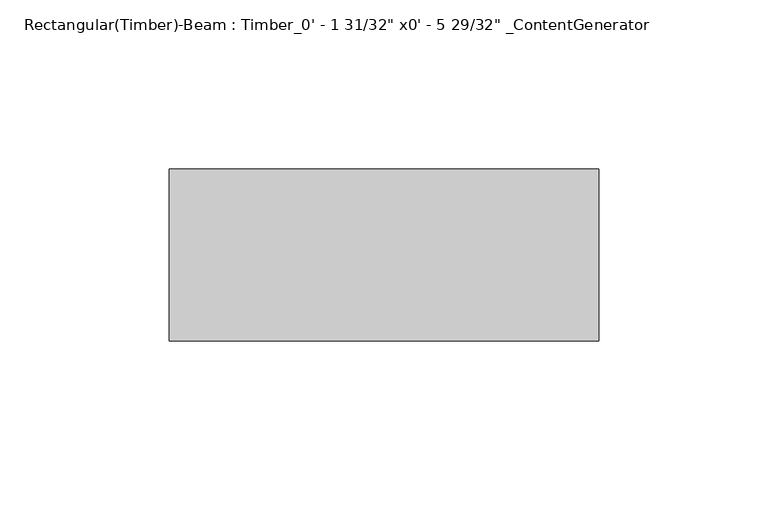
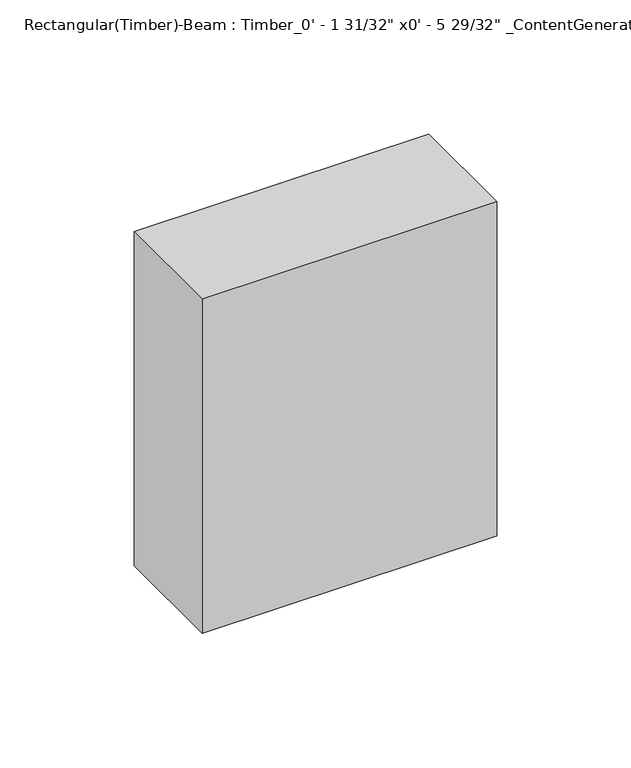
"""IFC4 building model written with IfcOpenShell, lengths in millimetres: beam geometry."""

from ifc_helpers import new_model, si_unit, frame, origin, place, context, project, spatial, polyline, outline, extrude, source, transform, mapped, element, save


def beam_aa3e2137(model_context):
    return source(origin(), model_context, "Body", "SweptSolid", [
        extrude(outline(polyline([(76.1899994, 25.4), (76.1899994, -25.4), (-50.79, -25.4), (-50.79, 25.4), (76.1899994, 25.4)])), frame((0.0, 0.0, -76.2), z_axis=(0.0, 0.0, 1.0), x_axis=(1.0, 0.0, 0.0)), (0.0, 0.0, 1.0), 152.4),
    ])


if __name__ == "__main__":
    model = new_model("IFC4")
    model_context = context("Model", 3, world=origin())
    ifc_project = project(units=[si_unit("LENGTHUNIT", "METRE", prefix="MILLI")], contexts=[model_context])
    site = spatial("IfcSite", under=ifc_project)
    building = spatial("IfcBuilding", under=site)
    placement = place(None, origin())
    beam_shape = beam_aa3e2137(model_context)
    element("IfcBeam", 1, ObjectType="Rectangular(Timber)-Beam : Timber_0' - 1 31/32\" x0' - 5 29/32\" _ContentGenerator", at=placement, inside=building, context=model_context, shape_type="MappedRepresentation", body=[
        mapped(beam_shape, transform((0.0, 0.0, 0.0), x_axis=(1.0, 0.0, 0.0), y_axis=(0.0, 1.0, 0.0), z_axis=(0.0, 0.0, 1.0))),
    ])
    save(model, "model.ifc")
